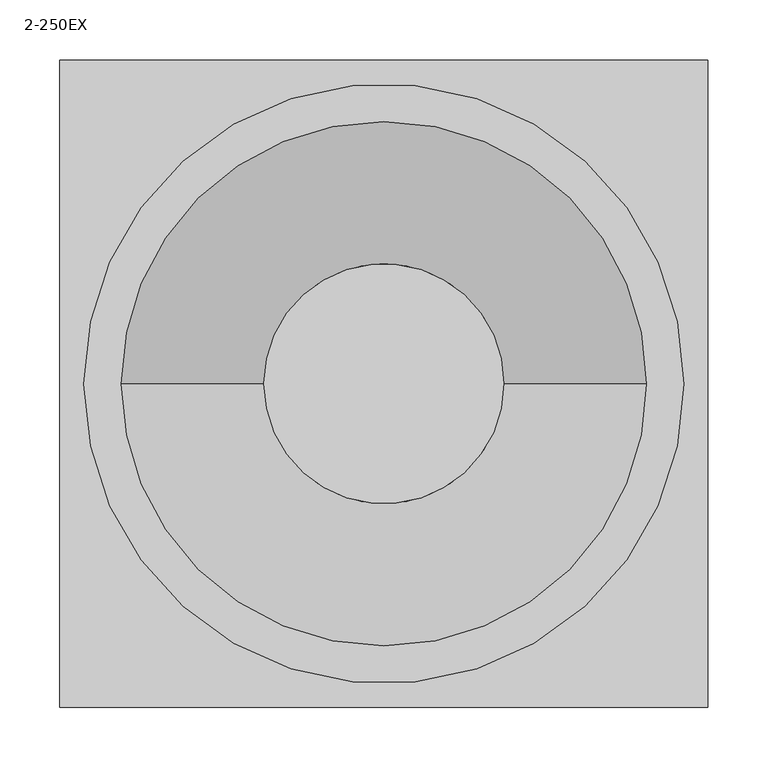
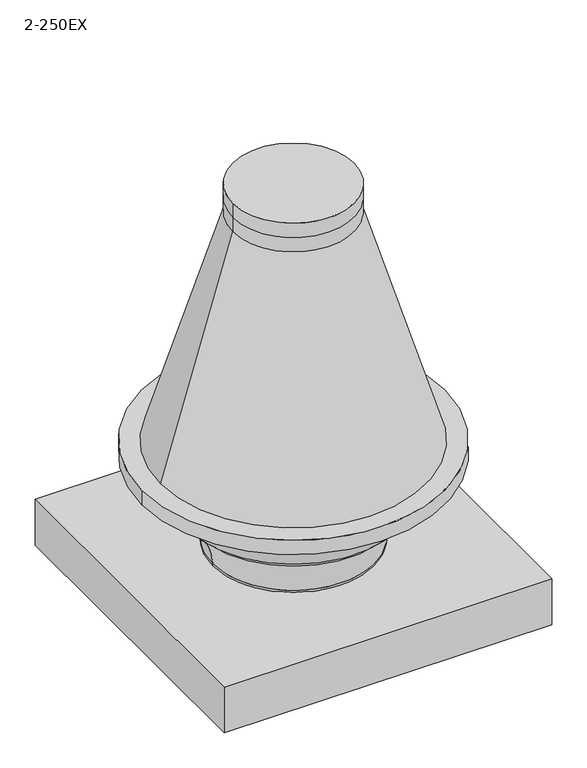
"""IFC4 building model written with IfcOpenShell, lengths in millimetres: unitary equipment geometry, VE-Wentylator-ParaForma-Harmann-VITT_EX-Wywiewny : 2-250EX."""

from ifc_helpers import new_model, si_unit, point, frame, origin, origin_2d, place, context, project, spatial, polyline, circle_curve, ellipse_curve, trimmed, segment, composite_curve, outline, extrude, faceted_brep, source, transform, mapped, element, save
from ifc_brep_helpers import plane_surface, cylinder_surface, revolved_surface, advanced_brep


def unitary_equipment_2_250ex_96e9f29b(model_context):
    return source(origin(), model_context, "Body", "SolidModel", [
        advanced_brep(
        [(-218.9, 0.0, 172.5), (218.9, 0.0, 172.5), (133.12, 0.0, 25.0), (-133.12, 0.0, 25.0), (-174.7, 0.0, 103.3), (-160.3, 0.0, 89.5), (160.3, 0.0, 89.5), (174.7, 0.0, 103.3), (-207.0, 0.0, 147.8), (207.0, 0.0, 147.8), (-133.2, 0.0, 28.2), (133.2, 0.0, 28.2)],
        [
            (0, 1, circle_curve(frame((0.0, 0.0, 172.5), z_axis=(0.0, 0.0, 1.0), x_axis=(1.0, 0.0, 0.0)), 218.9)),
            (1, 0, circle_curve(frame((0.0, 0.0, 172.5), z_axis=(0.0, 0.0, 1.0), x_axis=(1.0, 0.0, 0.0)), 218.9)),
            (2, 3, circle_curve(frame((0.0, 0.0, 25.0), z_axis=(0.0, 0.0, -1.0), x_axis=(1.0, 0.0, 0.0)), 133.12)),
            (3, 2, circle_curve(frame((0.0, 0.0, 25.0), z_axis=(0.0, 0.0, -1.0), x_axis=(1.0, 0.0, 0.0)), 133.12)),
            (4, 5),
            (5, 6, circle_curve(frame((0.0, 0.0, 89.5), z_axis=(0.0, 0.0, 1.0), x_axis=(1.0, 0.0, 0.0)), 160.3)),
            (6, 7),
            (7, 4, circle_curve(frame((0.0, 0.0, 103.3), z_axis=(0.0, 0.0, -1.0), x_axis=(1.0, 0.0, 0.0)), 174.7)),
            (4, 7, circle_curve(frame((0.0, 0.0, 103.3), z_axis=(0.0, 0.0, -1.0), x_axis=(1.0, 0.0, 0.0)), 174.7)),
            (6, 5, circle_curve(frame((0.0, 0.0, 89.5), z_axis=(0.0, 0.0, 1.0), x_axis=(1.0, 0.0, 0.0)), 160.3)),
            (0, 8),
            (8, 9, circle_curve(frame((0.0, 0.0, 147.8), z_axis=(0.0, 0.0, 1.0), x_axis=(1.0, 0.0, 0.0)), 207.0)),
            (9, 1),
            (9, 8, circle_curve(frame((0.0, 0.0, 147.8), z_axis=(0.0, 0.0, 1.0), x_axis=(1.0, 0.0, 0.0)), 207.0)),
            (10, 3),
            (2, 11),
            (11, 10, circle_curve(frame((0.0, 0.0, 28.2), z_axis=(0.0, 0.0, -1.0), x_axis=(1.0, 0.0, 0.0)), 133.2)),
            (10, 11, circle_curve(frame((0.0, 0.0, 28.2), z_axis=(0.0, 0.0, -1.0), x_axis=(1.0, 0.0, 0.0)), 133.2)),
            (5, 10, circle_curve(frame((-221.2259936, 0.0, 25.9250501), z_axis=(0.0, 1.0, 0.0), x_axis=(1.0, 0.0, 0.0)), 88.0553857)),
            (11, 6, circle_curve(frame((221.2259936, 0.0, 25.9250501), z_axis=(0.0, 1.0, 0.0), x_axis=(-1.0, 0.0, 0.0)), 88.0553857)),
            (7, 9, circle_curve(frame((67.7461089, 0.0, 214.9040603), z_axis=(0.0, -1.0, 0.0), x_axis=(-1.0, 0.0, 0.0)), 154.578786)),
            (8, 4, circle_curve(frame((-67.7461089, 0.0, 214.9040603), z_axis=(0.0, -1.0, 0.0), x_axis=(1.0, 0.0, 0.0)), 154.578786)),
        ],
        [
            plane_surface(frame((0.0, 0.0, 172.5), z_axis=(0.0, 0.0, 1.0), x_axis=(0.0, -1.0, 0.0))),
            plane_surface(frame((0.0, 0.0, 25.0), z_axis=(0.0, 0.0, -1.0), x_axis=(0.0, -1.0, 0.0))),
            revolved_surface(polyline([(174.7, 0.0, 103.3), (160.3, 0.0, 89.5)]), (0.0, 0.0, 25.0), (0.0, 0.0, -1.0)),
            revolved_surface(polyline([(218.9, 0.0, 172.5), (207.0, 0.0, 147.8)]), (0.0, 0.0, 25.0), (0.0, 0.0, -1.0)),
            revolved_surface(polyline([(133.2, 0.0, 28.2), (133.12, 0.0, 25.0)]), (0.0, 0.0, 25.0), (0.0, 0.0, -1.0)),
            revolved_surface(trimmed(ellipse_curve(frame((221.2259936, 0.0, 25.9250501), z_axis=(0.0, -1.0, 0.0), x_axis=(-1.0, 0.0, 0.0)), 88.0553857, 88.0553857), [point((160.3, 0.0, 89.5))], [point((133.2, 0.0, 28.2))], True, "CARTESIAN"), (0.0, 0.0, 25.0), (0.0, 0.0, -1.0)),
            revolved_surface(trimmed(ellipse_curve(frame((67.7461089, 0.0, 214.9040603), z_axis=(0.0, 1.0, 0.0), x_axis=(-1.0, 0.0, 0.0)), 154.578786, 154.578786), [point((207.0, 0.0, 147.8))], [point((174.7, 0.0, 103.3))], True, "CARTESIAN"), (0.0, 0.0, 25.0), (0.0, 0.0, -1.0)),
        ],
        [
            (0, [[1, 2]]),
            (1, [[3, 4]]),
            (2, [[5, 6, 7, 8]]),
            (2, [[-5, 9, -7, 10]]),
            (3, [[11, 12, 13, -1]]),
            (3, [[-11, -2, -13, 14]]),
            (4, [[15, -3, 16, 17]]),
            (4, [[-15, 18, -16, -4]]),
            (5, [[-6, 19, -17, 20]]),
            (5, [[-10, -20, -18, -19]]),
            (6, [[-8, 21, -12, 22]]),
            (6, [[-9, -22, -14, -21]]),
        ],
    ),
        advanced_brep(
        [(-218.75, 0.0, 197.5), (218.75, 0.0, 197.5), (100.0, 0.0, 595.0), (-100.0, 0.0, 595.0), (-100.0, 0.0, 620.0), (100.0, 0.0, 620.0), (-100.0, 0.0, 645.0), (100.0, 0.0, 645.0)],
        [
            (0, 1, circle_curve(frame((0.0, 0.0, 197.5), z_axis=(0.0, 0.0, -1.0), x_axis=(1.0, 0.0, 0.0)), 218.75)),
            (1, 0, circle_curve(frame((0.0, 0.0, 197.5), z_axis=(0.0, 0.0, -1.0), x_axis=(-1.0, 0.0, 0.0)), 218.75)),
            (1, 2),
            (2, 3, circle_curve(frame((0.0, 0.0, 595.0), z_axis=(0.0, 0.0, -1.0), x_axis=(-1.0, 0.0, 0.0)), 100.0)),
            (3, 0),
            (3, 2, circle_curve(frame((0.0, 0.0, 595.0), z_axis=(0.0, 0.0, -1.0), x_axis=(1.0, 0.0, 0.0)), 100.0)),
            (3, 4),
            (4, 5, circle_curve(frame((0.0, 0.0, 620.0), z_axis=(0.0, 0.0, -1.0), x_axis=(1.0, 0.0, 0.0)), 100.0)),
            (5, 2),
            (5, 4, circle_curve(frame((0.0, 0.0, 620.0), z_axis=(0.0, 0.0, -1.0), x_axis=(1.0, 0.0, 0.0)), 100.0)),
            (6, 7, circle_curve(frame((0.0, 0.0, 645.0), z_axis=(0.0, 0.0, 1.0), x_axis=(1.0, 0.0, 0.0)), 100.0)),
            (7, 6, circle_curve(frame((0.0, 0.0, 645.0), z_axis=(0.0, 0.0, 1.0), x_axis=(1.0, 0.0, 0.0)), 100.0)),
            (7, 5),
            (4, 6),
        ],
        [
            plane_surface(frame((0.0, 0.0, 197.5), z_axis=(0.0, 0.0, -1.0), x_axis=(0.0, -1.0, 0.0))),
            revolved_surface(polyline([(-99.99999999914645, 0.0, 595.0), (-218.75, 0.0, 197.5)]), (0.0, 0.0, 929.7368421), (0.0, 0.0, -1.0)),
            revolved_surface(polyline([(99.99999999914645, 0.0, 595.0), (218.75, 0.0, 197.5)]), (0.0, 0.0, 929.7368421), (0.0, 0.0, -1.0)),
            cylinder_surface(frame((0.0, 0.0, 595.0), z_axis=(0.0, 0.0, -1.0), x_axis=(1.0, 0.0, 0.0)), 100.0),
            plane_surface(frame((0.0, 0.0, 645.0), z_axis=(0.0, 0.0, 1.0), x_axis=(0.0, 1.0, 0.0))),
        ],
        [
            (0, [[1, 2]]),
            (1, [[-2, 3, 4, 5]]),
            (2, [[-1, -5, 6, -3]]),
            (3, [[7, 8, 9, -6]]),
            (3, [[-7, -4, -9, 10]]),
            (4, [[11, 12]]),
            (3, [[-12, 13, -8, 14]]),
            (3, [[-11, -14, -10, -13]]),
        ],
    ),
        faceted_brep([(245.0, -245.0, -55.0), (245.0, -245.0, 0.0), (245.0, 245.0, 0.0), (245.0, 245.0, -55.0), (270.0, -270.0, 25.0), (270.0, -270.0, -55.0), (270.0, 270.0, -55.0), (270.0, 270.0, 25.0), (-245.0, 245.0, 0.0), (-245.0, 245.0, -55.0), (-270.0, 270.0, -55.0), (-270.0, 270.0, 25.0), (-245.0, -245.0, 0.0), (-245.0, -245.0, -55.0), (-270.0, -270.0, -55.0), (-270.0, -270.0, 25.0)], [[[0, 1, 2, 3]], [[4, 5, 6, 7]], [[3, 2, 8, 9]], [[7, 6, 10, 11]], [[9, 8, 12, 13]], [[11, 10, 14, 15]], [[7, 11, 15, 4]], [[1, 12, 8, 2]], [[13, 12, 1, 0]], [[5, 14, 10, 6], [3, 9, 13, 0]], [[15, 14, 5, 4]]]),
        extrude(outline(composite_curve([segment(trimmed(circle_curve(origin_2d(), 250.0), [point((-250.0, 0.0))], [point((250.0, 0.0))], False, "CARTESIAN"), True, "CONTINUOUS"), segment(trimmed(circle_curve(origin_2d(), 250.0), [point((250.0, 0.0))], [point((-250.0, 0.0))], False, "CARTESIAN"), True, "CONTINUOUS")], self_intersect=False)), frame((0.0, 0.0, 172.5), z_axis=(0.0, 0.0, 1.0), x_axis=(1.0, 0.0, 0.0)), (0.0, 0.0, 1.0), 25.0),
    ])


if __name__ == "__main__":
    model = new_model("IFC4")
    model_context = context("Model", 3, world=origin())
    ifc_project = project(units=[si_unit("LENGTHUNIT", "METRE", prefix="MILLI")], contexts=[model_context])
    site = spatial("IfcSite", under=ifc_project)
    building = spatial("IfcBuilding", under=site)
    placement = place(None, origin())
    unitary_equipment_2_250ex_shape = unitary_equipment_2_250ex_96e9f29b(model_context)
    element("IfcUnitaryEquipment", 1, ObjectType="VE-Wentylator-ParaForma-Harmann-VITT_EX-Wywiewny : 2-250EX", at=placement, inside=building, context=model_context, shape_type="MappedRepresentation", body=[
        mapped(unitary_equipment_2_250ex_shape, transform((0.0, 0.0, 0.0), x_axis=(1.0, 0.0, 0.0), y_axis=(0.0, 1.0, 0.0), z_axis=(0.0, 0.0, 1.0))),
    ])
    save(model, "model.ifc")
